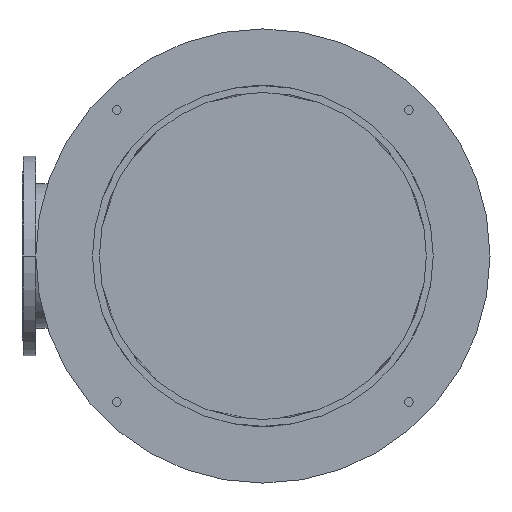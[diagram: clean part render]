
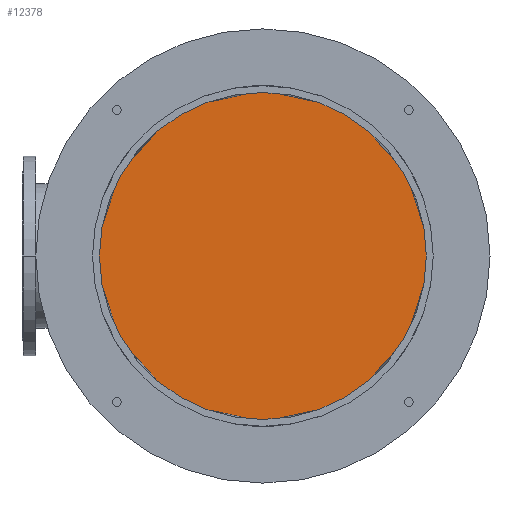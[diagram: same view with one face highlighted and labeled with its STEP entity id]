
A CAD part, front view. The second image highlights one B-rep face of the part: STEP entity #12378.
In plain terms, the highlighted planar face has unit normal (0, -1, 0).
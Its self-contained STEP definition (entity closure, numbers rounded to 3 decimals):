
#2963=CARTESIAN_POINT('',(0.,1466.,0.));
#2964=DIRECTION('',(0.,-1.,0.));
#2965=DIRECTION('',(0.,0.,-1.));
#2966=AXIS2_PLACEMENT_3D('',#2963,#2964,#2965);
#3007=CARTESIAN_POINT('',(0.,1466.,0.));
#3008=DIRECTION('',(0.,-1.,0.));
#3009=DIRECTION('',(0.,0.,1.));
#3010=AXIS2_PLACEMENT_3D('',#3007,#3008,#3009);
#7549=CARTESIAN_POINT('',(0.,1466.,560.));
#7550=CARTESIAN_POINT('',(0.,1466.,-560.));
#7551=VERTEX_POINT('',#7549);
#7552=VERTEX_POINT('',#7550);
#12369=CARTESIAN_POINT('',(0.,1466.,0.));
#12370=DIRECTION('',(0.,1.,0.));
#12371=DIRECTION('',(0.,0.,-1.));
#12372=AXIS2_PLACEMENT_3D('',#12369,#12370,#12371);
#12373=PLANE('',#12372);
#12374=ORIENTED_EDGE('',*,*,#12342,.F.);
#12375=ORIENTED_EDGE('',*,*,#12280,.F.);
#12376=EDGE_LOOP('',(#12374,#12375));
#12377=FACE_OUTER_BOUND('',#12376,.F.);
#12378=ADVANCED_FACE('',(#12377),#12373,.F.);
#2967=CIRCLE('',#2966,560.);
#3011=CIRCLE('',#3010,560.);
#12280=EDGE_CURVE('',#7552,#7551,#2967,.T.);
#12342=EDGE_CURVE('',#7551,#7552,#3011,.T.);
